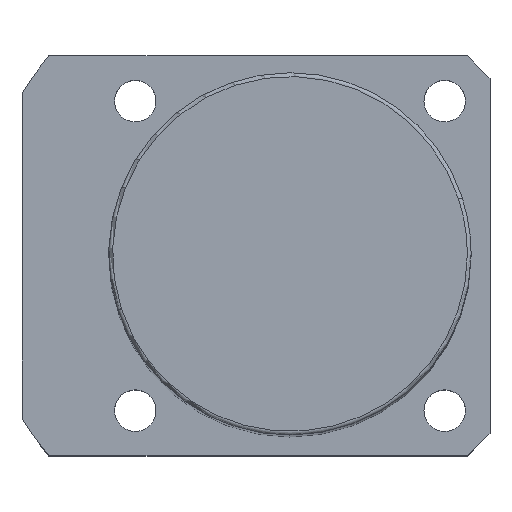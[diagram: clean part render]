
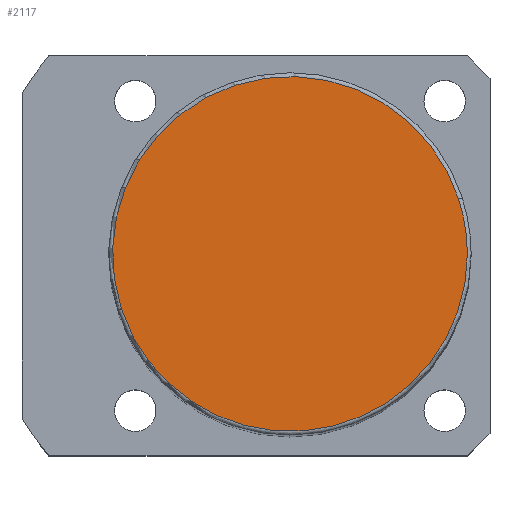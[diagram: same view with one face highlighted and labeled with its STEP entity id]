
A CAD part, top view. The second image highlights one B-rep face of the part: STEP entity #2117.
In plain terms, the highlighted planar face has unit normal (0, 0, 1).
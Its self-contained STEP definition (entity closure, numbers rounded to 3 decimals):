
#2083=CARTESIAN_POINT('',(23.5,0.0,159.0));
#2084=VERTEX_POINT('',#2083);
#2085=CARTESIAN_POINT('',(22.35,7.262,159.0));
#2086=VERTEX_POINT('',#2085);
#2087=CARTESIAN_POINT('',(0.0,0.0,159.0));
#2088=DIRECTION('',(0.0,0.0,1.0));
#2089=DIRECTION('',(1.0,0.0,0.0));
#2090=AXIS2_PLACEMENT_3D('',#2087,#2088,#2089);
#2091=CIRCLE('',#2090,23.5);
#2092=EDGE_CURVE('no 2124',#2084,#2086,#2091,.T.);
#2093=ORIENTED_EDGE('',*,*,#2092,.T.);
#2094=CARTESIAN_POINT('',(-22.35,-7.262,159.0));
#2095=VERTEX_POINT('',#2094);
#2096=CARTESIAN_POINT('',(0.0,0.0,159.0));
#2097=DIRECTION('',(0.0,0.0,1.0));
#2098=DIRECTION('',(1.0,0.0,0.0));
#2099=AXIS2_PLACEMENT_3D('',#2096,#2097,#2098);
#2100=CIRCLE('',#2099,23.5);
#2101=EDGE_CURVE('no 2130',#2086,#2095,#2100,.T.);
#2102=ORIENTED_EDGE('',*,*,#2101,.T.);
#2103=CARTESIAN_POINT('',(0.0,0.0,159.0));
#2104=DIRECTION('',(0.0,0.0,1.0));
#2105=DIRECTION('',(1.0,0.0,0.0));
#2106=AXIS2_PLACEMENT_3D('',#2103,#2104,#2105);
#2107=CIRCLE('',#2106,23.5);
#2108=EDGE_CURVE('no 2134',#2095,#2084,#2107,.T.);
#2109=ORIENTED_EDGE('',*,*,#2108,.T.);
#2110=EDGE_LOOP('',(#2093,#2102,#2109));
#2111=FACE_OUTER_BOUND('',#2110,.T.);
#2112=CARTESIAN_POINT('',(0.0,0.0,159.0));
#2113=DIRECTION('',(0.0,0.0,1.0));
#2114=DIRECTION('',(1.0,0.0,0.0));
#2115=AXIS2_PLACEMENT_3D('',#2112,#2113,#2114);
#2116=PLANE('',#2115);
#2117=ADVANCED_FACE('no 2115',(#2111),#2116,.T.);
